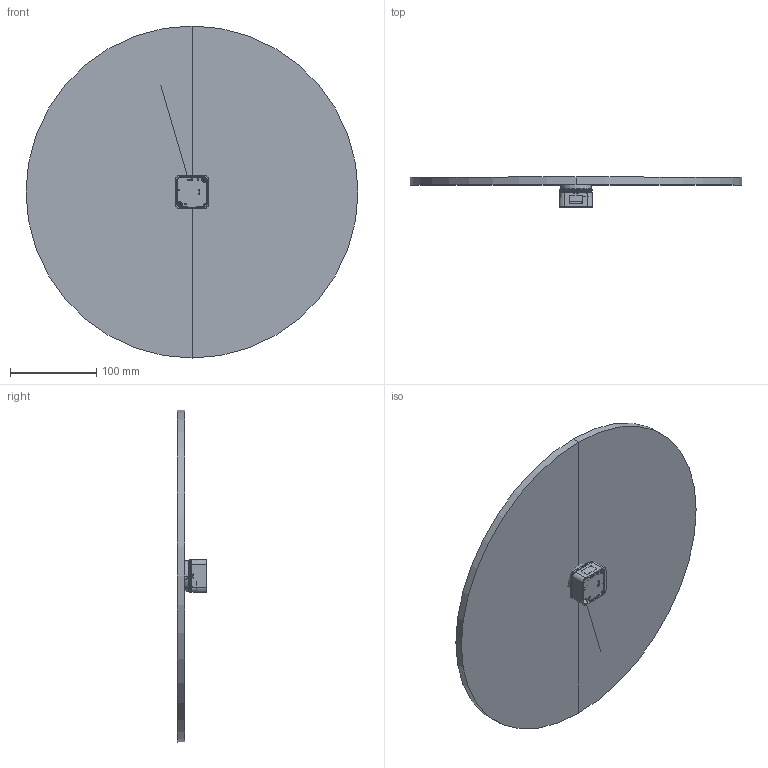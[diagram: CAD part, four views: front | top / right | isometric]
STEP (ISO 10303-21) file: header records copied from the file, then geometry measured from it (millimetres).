
FILE_DESCRIPTION((''),'2;1');
FILE_NAME('00_LD06-TOF_ASM_12_ASM','2021-12-23T14:01:27',('3080mt'),(''),'CREO PARAMETRIC BY PTC INC, 2020154','CREO PARAMETRIC BY PTC INC, 2020154','');
FILE_SCHEMA(('AUTOMOTIVE_DESIGN { 1 0 10303 214 1 1 1 1 }'));
Length unit declared in the file: millimetre
Products named in the file (11): LD06_XIAKE; PCBA_BOTTOM_3; BOTTOM_COVER_ASM_9_ASM; LD06_SHANGGAI_NEW; JG_4_1; LENS-ASSEMBLY_ASM_8_ASM_6_ASM_1_ASM; JIGUANGGUAN-ASM-20211122_ASM; STL-06P_SENSOR_V1_1_20211102_ASM; LENS-ASSEMBLY_ASM_8_ASM_6_ASM; TOP_COVER_ASM_18_ASM; 00_LD06-TOF_ASM_12_ASM
Assembly tree (10 placements, depth 7):
  00_LD06-TOF_ASM_12_ASM
    BOTTOM_COVER_ASM_9_ASM
      LD06_XIAKE
      PCBA_BOTTOM_3
    TOP_COVER_ASM_18_ASM
      LD06_SHANGGAI_NEW
      LENS-ASSEMBLY_ASM_8_ASM_6_ASM
        STL-06P_SENSOR_V1_1_20211102_ASM
          JIGUANGGUAN-ASM-20211122_ASM
            LENS-ASSEMBLY_ASM_8_ASM_6_ASM_1_ASM
              JG_4_1
Bounding box: 384.6 x 34.45 x 384.6 mm (x, y, z)
Volume: 11212.9 mm3; surface area: 262857.3 mm2
Topology: 4 solids, 5 shells, 1307 faces, 3603 edges, 2315 vertices
Faces by surface type: plane 498, cylinder 268, cone 240, bspline 182, torus 110, sphere 9
Entity records: 72238 total; most frequent: CARTESIAN_POINT 20575, ORIENTED_EDGE 7198, DIRECTION 5870, PRESENTATION_STYLE_ASSIGNMENT 4874, STYLED_ITEM 4874, CURVE_STYLE 3599, EDGE_CURVE 3599, VERTEX_POINT 2315
